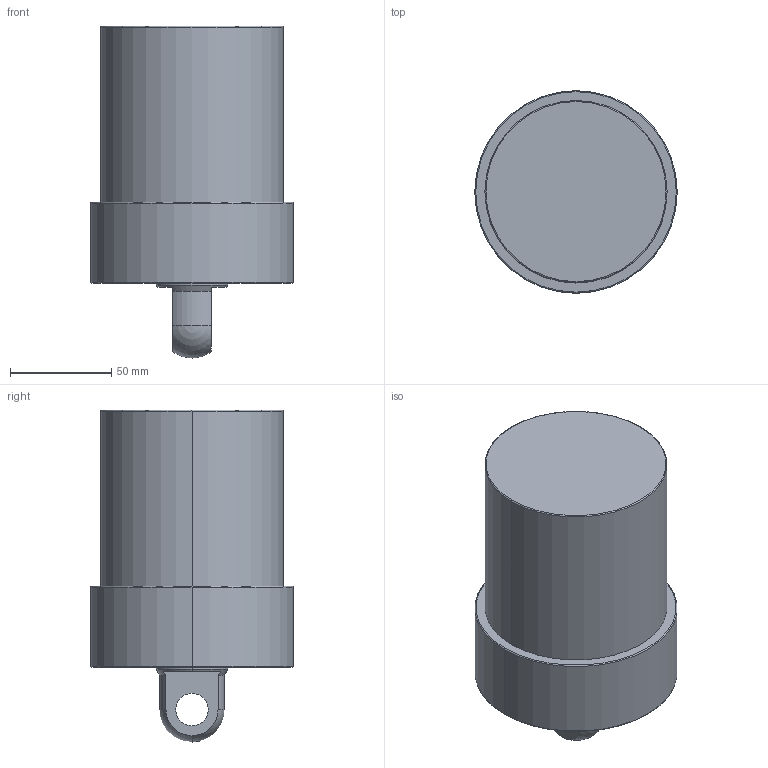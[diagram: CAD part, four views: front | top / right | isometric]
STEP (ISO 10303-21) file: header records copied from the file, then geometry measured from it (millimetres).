
FILE_DESCRIPTION (( 'STEP AP203' ), '1' );
FILE_NAME ('CLLU-090CP-065.STEP', '2020-01-13T03:28:14', ( '' ), ( '' ), 'SwSTEP 2.0', 'SolidWorks 2015', '' );
FILE_SCHEMA (( 'CONFIG_CONTROL_DESIGN' ));
Length unit declared in the file: millimetre
Products named in the file (1): CLLU-090CP-065
Bounding box: 100 x 100 x 164 mm (x, y, z)
Volume: 877313.2 mm3; surface area: 58733.5 mm2
Topology: 1 solids, 1 shells, 57 faces, 134 edges, 77 vertices
Faces by surface type: cylinder 22, cone 18, plane 9, torus 6, sphere 2
Entity records: 1643 total; most frequent: DIRECTION 308, CARTESIAN_POINT 267, ORIENTED_EDGE 244, AXIS2_PLACEMENT_3D 132, EDGE_CURVE 122, VERTEX_POINT 75, CIRCLE 74, EDGE_LOOP 67
